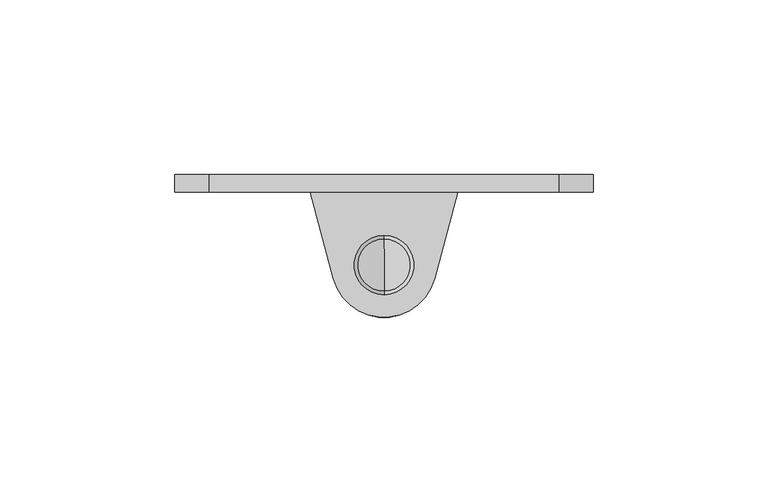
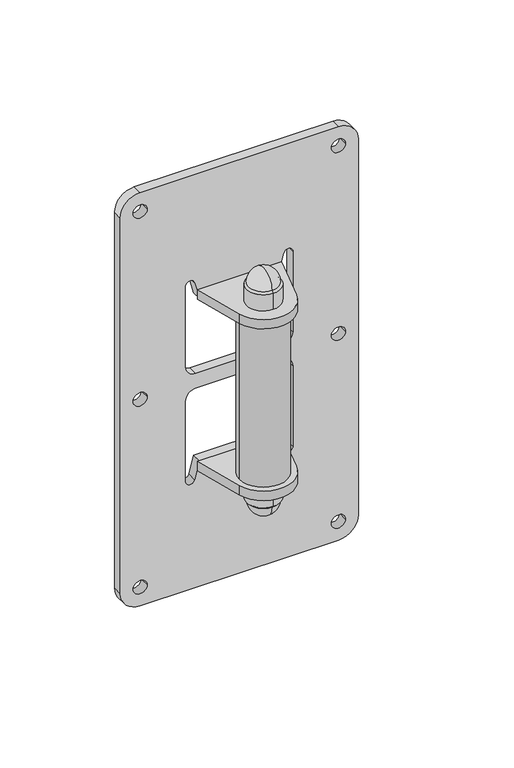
"""IFC4 building model written with IfcOpenShell, lengths in millimetres: proxy geometry, ePS10-WM02-WVM : ePS10-WM02-WVM."""

from ifc_helpers import new_model, si_unit, point, frame, frame_2d, origin, place, context, project, spatial, polyline, circle_curve, ellipse_curve, trimmed, segment, composite_curve, outline, extrude, source, transform, mapped, element, save
from ifc_brep_helpers import plane_surface, cylinder_surface, revolved_surface, advanced_brep


def generic_models_40b17b7d(model_context):
    return source(origin(), model_context, "Body", "SolidModel", [
        advanced_brep(
        [(0.0, -18.5250899, 57.7223064), (0.0, -33.480477, 57.7223064), (0.0, -26.0027834, 65.2), (0.0, -17.5027834, 56.7), (0.0, -34.5027834, 56.7), (0.0, -17.5027834, 48.2), (0.0, -34.5027834, 48.2), (0.0, -26.0027834, 48.2)],
        [
            (0, 1, circle_curve(frame((0.0, -26.0027834, 57.7223064), z_axis=(0.0, 0.0, 1.0), x_axis=(0.0, -1.0, 0.0)), 7.4776936)),
            (1, 2, circle_curve(frame((0.0, -26.0027834, 57.7223064), z_axis=(-1.0, 0.0, 0.0), x_axis=(0.0, 1.0, 0.0)), 7.4776936)),
            (2, 0, circle_curve(frame((0.0, -26.0027834, 57.7223064), z_axis=(-1.0, 0.0, 0.0), x_axis=(0.0, -1.0, 0.0)), 7.4776936)),
            (1, 0, circle_curve(frame((0.0, -26.0027834, 57.7223064), z_axis=(0.0, 0.0, 1.0), x_axis=(0.0, -1.0, 0.0)), 7.4776936)),
            (3, 4, circle_curve(frame((0.0, -26.0027834, 56.7), z_axis=(0.0, 0.0, 1.0), x_axis=(0.0, -1.0, 0.0)), 8.5)),
            (4, 1),
            (0, 3),
            (4, 3, circle_curve(frame((0.0, -26.0027834, 56.7), z_axis=(0.0, 0.0, 1.0), x_axis=(0.0, -1.0, 0.0)), 8.5)),
            (5, 6, circle_curve(frame((0.0, -26.0027834, 48.2), z_axis=(0.0, 0.0, 1.0), x_axis=(0.0, -1.0, 0.0)), 8.5)),
            (6, 4),
            (3, 5),
            (6, 5, circle_curve(frame((0.0, -26.0027834, 48.2), z_axis=(0.0, 0.0, 1.0), x_axis=(0.0, -1.0, 0.0)), 8.5)),
            (7, 6),
            (5, 7),
        ],
        [
            revolved_surface(trimmed(ellipse_curve(frame((0.0, -26.0027834, 57.7223064), z_axis=(1.0, 0.0, 0.0), x_axis=(0.0, 1.0, 0.0)), 7.4776936, 7.4776936), [point((0.0, -26.0027834, 65.2))], [point((0.0, -33.480477, 57.7223064))], True, "CARTESIAN"), (0.0, -26.0027834, 74.3), (0.0, 0.0, -1.0)),
            revolved_surface(polyline([(0.0, -33.480477, 57.7223064), (0.0, -34.5027834, 56.7)]), (0.0, -26.0027834, 74.3), (0.0, 0.0, -1.0)),
            cylinder_surface(frame((0.0, -26.0027834, 74.3), z_axis=(0.0, 0.0, -1.0), x_axis=(0.0, -1.0, 0.0)), 8.5),
            plane_surface(frame((0.0, -26.0027834, 48.2), z_axis=(0.0, 0.0, -1.0), x_axis=(0.0, -1.0, 0.0))),
        ],
        [
            (0, [[1, 2, 3]]),
            (0, [[4, -3, -2]]),
            (1, [[5, 6, -1, 7]]),
            (1, [[8, -7, -4, -6]]),
            (2, [[9, 10, -5, 11]]),
            (2, [[12, -11, -8, -10]]),
            (3, [[13, -9, 14]]),
            (3, [[-14, -12, -13]]),
        ],
    ),
        advanced_brep(
        [(0.0, -17.5027834, -48.2), (0.0, -34.5027834, -48.2), (0.0, -26.0027834, -48.2), (0.0, -17.5027834, -56.7), (0.0, -34.5027834, -56.7), (0.0, -18.5250899, -57.7223064), (0.0, -33.480477, -57.7223064), (0.0, -26.0027834, -65.2)],
        [
            (0, 1, circle_curve(frame((0.0, -26.0027834, -48.2), z_axis=(0.0, 0.0, 1.0), x_axis=(0.0, -1.0, 0.0)), 8.5)),
            (1, 2),
            (2, 0),
            (1, 0, circle_curve(frame((0.0, -26.0027834, -48.2), z_axis=(0.0, 0.0, 1.0), x_axis=(0.0, -1.0, 0.0)), 8.5)),
            (3, 4, circle_curve(frame((0.0, -26.0027834, -56.7), z_axis=(0.0, 0.0, 1.0), x_axis=(0.0, -1.0, 0.0)), 8.5)),
            (4, 1),
            (0, 3),
            (4, 3, circle_curve(frame((0.0, -26.0027834, -56.7), z_axis=(0.0, 0.0, 1.0), x_axis=(0.0, -1.0, 0.0)), 8.5)),
            (5, 6, circle_curve(frame((0.0, -26.0027834, -57.7223064), z_axis=(0.0, 0.0, 1.0), x_axis=(0.0, -1.0, 0.0)), 7.4776936)),
            (6, 4),
            (3, 5),
            (6, 5, circle_curve(frame((0.0, -26.0027834, -57.7223064), z_axis=(0.0, 0.0, 1.0), x_axis=(0.0, -1.0, 0.0)), 7.4776936)),
            (7, 6, circle_curve(frame((0.0, -26.0027834, -57.7223064), z_axis=(-1.0, 0.0, 0.0), x_axis=(0.0, 1.0, 0.0)), 7.4776936)),
            (5, 7, circle_curve(frame((0.0, -26.0027834, -57.7223064), z_axis=(-1.0, 0.0, 0.0), x_axis=(0.0, -1.0, 0.0)), 7.4776936)),
        ],
        [
            plane_surface(frame((0.0, -26.0027834, -48.2), z_axis=(0.0, 0.0, 1.0), x_axis=(0.0, -1.0, 0.0))),
            cylinder_surface(frame((0.0, -26.0027834, 74.3), z_axis=(0.0, 0.0, -1.0), x_axis=(0.0, -1.0, 0.0)), 8.5),
            revolved_surface(polyline([(0.0, -34.5027834, -56.7), (0.0, -33.480477, -57.7223064)]), (0.0, -26.0027834, 74.3), (0.0, 0.0, -1.0)),
            revolved_surface(trimmed(ellipse_curve(frame((0.0, -26.0027834, -57.7223064), z_axis=(1.0, 0.0, 0.0), x_axis=(0.0, 1.0, 0.0)), 7.4776936, 7.4776936), [point((0.0, -33.480477, -57.7223064))], [point((0.0, -26.0027834, -65.2))], True, "CARTESIAN"), (0.0, -26.0027834, 74.3), (0.0, 0.0, -1.0)),
        ],
        [
            (0, [[1, 2, 3]]),
            (0, [[4, -3, -2]]),
            (1, [[5, 6, -1, 7]]),
            (1, [[8, -7, -4, -6]]),
            (2, [[9, 10, -5, 11]]),
            (2, [[12, -11, -8, -10]]),
            (3, [[13, -9, 14]]),
            (3, [[-14, -12, -13]]),
        ],
    ),
        extrude(outline(composite_curve([segment(trimmed(circle_curve(frame_2d((0.0, -26.0027834)), 12.0), [point((-12.0, -26.0027834))], [point((12.0, -26.0027834))], False, "CARTESIAN"), True, "CONTINUOUS"), segment(trimmed(circle_curve(frame_2d((0.0, -26.0027834)), 12.0), [point((12.0, -26.0027834))], [point((-12.0, -26.0027834))], False, "CARTESIAN"), True, "CONTINUOUS")], self_intersect=False)), frame((0.0, 0.0, -43.2), z_axis=(0.0, 0.0, 1.0), x_axis=(1.0, 0.0, 0.0)), (0.0, 0.0, 1.0), 86.4),
        extrude(outline(composite_curve([segment(polyline([(21.1560758, -5.0027833), (14.4888874, -29.8850691)]), True, "CONTINUOUS"), segment(trimmed(circle_curve(frame_2d((0.0, -26.0027834)), 15.0), [point((14.4888874, -29.8850691))], [point((-14.4888874, -29.8850691))], False, "CARTESIAN"), True, "CONTINUOUS"), segment(polyline([(-14.4888874, -29.8850691), (-21.1560758, -5.0027833), (21.1560758, -5.0027833)]), True, "CONTINUOUS")], self_intersect=False), holes=[composite_curve([segment(trimmed(circle_curve(frame_2d((0.0, -26.0027834)), 3.5), [point((-3.5, -26.0027834))], [point((3.5, -26.0027834))], True, "CARTESIAN"), True, "CONTINUOUS"), segment(trimmed(circle_curve(frame_2d((0.0, -26.0027834)), 3.5), [point((3.5, -26.0027834))], [point((-3.5, -26.0027834))], True, "CARTESIAN"), True, "CONTINUOUS")], self_intersect=False)]), frame((0.0, 0.0, -48.2), z_axis=(0.0, 0.0, 1.0), x_axis=(1.0, 0.0, 0.0)), (0.0, 0.0, 1.0), 5.0),
        extrude(outline(composite_curve([segment(polyline([(21.1560758, -5.0027833), (14.4888874, -29.8850691)]), True, "CONTINUOUS"), segment(trimmed(circle_curve(frame_2d((0.0, -26.0027834)), 15.0), [point((14.4888874, -29.8850691))], [point((-14.4888874, -29.8850691))], False, "CARTESIAN"), True, "CONTINUOUS"), segment(polyline([(-14.4888874, -29.8850691), (-21.1560758, -5.0027833), (21.1560758, -5.0027833)]), True, "CONTINUOUS")], self_intersect=False), holes=[composite_curve([segment(trimmed(circle_curve(frame_2d((0.0, -26.0027834)), 3.5), [point((-3.5, -26.0027834))], [point((3.5, -26.0027834))], True, "CARTESIAN"), True, "CONTINUOUS"), segment(trimmed(circle_curve(frame_2d((0.0, -26.0027834)), 3.5), [point((3.5, -26.0027834))], [point((-3.5, -26.0027834))], True, "CARTESIAN"), True, "CONTINUOUS")], self_intersect=False)]), frame((0.0, 0.0, 43.2), z_axis=(0.0, 0.0, 1.0), x_axis=(1.0, 0.0, 0.0)), (0.0, 0.0, 1.0), 5.0),
        extrude(outline(composite_curve([segment(polyline([(110.0, 50.0), (110.0, -50.0)]), True, "CONTINUOUS"), segment(trimmed(circle_curve(frame_2d((100.0, -50.0)), 10.0), [point((110.0, -50.0))], [point((100.0, -60.0))], False, "CARTESIAN"), True, "CONTINUOUS"), segment(polyline([(100.0, -60.0), (-100.0, -60.0)]), True, "CONTINUOUS"), segment(trimmed(circle_curve(frame_2d((-100.0, -50.0)), 10.0), [point((-100.0, -60.0))], [point((-110.0, -50.0))], False, "CARTESIAN"), True, "CONTINUOUS"), segment(polyline([(-110.0, -50.0), (-110.0, 50.0)]), True, "CONTINUOUS"), segment(trimmed(circle_curve(frame_2d((-100.0, 50.0)), 10.0), [point((-110.0, 50.0))], [point((-100.0, 60.0))], False, "CARTESIAN"), True, "CONTINUOUS"), segment(polyline([(-100.0, 60.0), (100.0, 60.0)]), True, "CONTINUOUS"), segment(trimmed(circle_curve(frame_2d((100.0, 50.0)), 10.0), [point((100.0, 60.0))], [point((110.0, 50.0))], False, "CARTESIAN"), True, "CONTINUOUS")], self_intersect=False), holes=[composite_curve([segment(trimmed(circle_curve(frame_2d((100.0, 50.0)), 3.5), [point((100.0, 46.5))], [point((100.0, 53.5))], True, "CARTESIAN"), True, "CONTINUOUS"), segment(trimmed(circle_curve(frame_2d((100.0, 50.0)), 3.5), [point((100.0, 53.5))], [point((100.0, 46.5))], True, "CARTESIAN"), True, "CONTINUOUS")], self_intersect=False), composite_curve([segment(trimmed(circle_curve(frame_2d((100.0, -50.0)), 3.5), [point((100.0, -46.5))], [point((100.0, -53.5))], True, "CARTESIAN"), True, "CONTINUOUS"), segment(trimmed(circle_curve(frame_2d((100.0, -50.0)), 3.5), [point((100.0, -53.5))], [point((100.0, -46.5))], True, "CARTESIAN"), True, "CONTINUOUS")], self_intersect=False), composite_curve([segment(trimmed(circle_curve(frame_2d((-100.0, -50.0)), 3.5), [point((-100.0, -46.5))], [point((-100.0, -53.5))], True, "CARTESIAN"), True, "CONTINUOUS"), segment(trimmed(circle_curve(frame_2d((-100.0, -50.0)), 3.5), [point((-100.0, -53.5))], [point((-100.0, -46.5))], True, "CARTESIAN"), True, "CONTINUOUS")], self_intersect=False), composite_curve([segment(trimmed(circle_curve(frame_2d((-100.0, 50.0)), 3.5), [point((-100.0, 46.5))], [point((-100.0, 53.5))], True, "CARTESIAN"), True, "CONTINUOUS"), segment(trimmed(circle_curve(frame_2d((-100.0, 50.0)), 3.5), [point((-100.0, 53.5))], [point((-100.0, 46.5))], True, "CARTESIAN"), True, "CONTINUOUS")], self_intersect=False), composite_curve([segment(polyline([(4.0, 22.0), (4.0, -22.0)]), True, "CONTINUOUS"), segment(trimmed(circle_curve(frame_2d((9.0, -22.0)), 5.0), [point((4.0, -22.0))], [point((9.0, -27.0))], True, "CARTESIAN"), True, "CONTINUOUS"), segment(polyline([(9.0, -27.0), (51.9, -27.0)]), True, "CONTINUOUS"), segment(trimmed(circle_curve(frame_2d((51.9, -24.735039)), 2.264961), [point((51.9, -27.0))], [point((52.4176381, -22.5300222))], True, "CARTESIAN"), True, "CONTINUOUS"), segment(polyline([(52.4176381, -22.5300222), (43.2, -20.0601636), (43.2, 20.0601636), (52.4176381, 22.5300222)]), True, "CONTINUOUS"), segment(trimmed(circle_curve(frame_2d((51.8290084, 24.726818)), 2.2742903), [point((52.4176381, 22.5300222))], [point((51.9, 27.0))], True, "CARTESIAN"), True, "CONTINUOUS"), segment(polyline([(51.9, 27.0), (9.0, 27.0)]), True, "CONTINUOUS"), segment(trimmed(circle_curve(frame_2d((9.0, 22.0)), 5.0), [point((9.0, 27.0))], [point((4.0, 22.0))], True, "CARTESIAN"), True, "CONTINUOUS")], self_intersect=False), composite_curve([segment(trimmed(circle_curve(frame_2d((-9.0, 22.0)), 5.0), [point((-4.0, 22.0))], [point((-9.0, 27.0))], True, "CARTESIAN"), True, "CONTINUOUS"), segment(polyline([(-9.0, 27.0), (-51.9, 27.0)]), True, "CONTINUOUS"), segment(trimmed(circle_curve(frame_2d((-51.8290084, 24.726818)), 2.2742903), [point((-51.9, 27.0))], [point((-52.4176381, 22.5300222))], True, "CARTESIAN"), True, "CONTINUOUS"), segment(polyline([(-52.4176381, 22.5300222), (-43.2, 20.0601636), (-43.2, -20.0601636), (-52.4176381, -22.5300222)]), True, "CONTINUOUS"), segment(trimmed(circle_curve(frame_2d((-51.9, -24.735039)), 2.264961), [point((-52.4176381, -22.5300222))], [point((-51.9, -27.0))], True, "CARTESIAN"), True, "CONTINUOUS"), segment(polyline([(-51.9, -27.0), (-9.0, -27.0)]), True, "CONTINUOUS"), segment(trimmed(circle_curve(frame_2d((-9.0, -22.0)), 5.0), [point((-9.0, -27.0))], [point((-4.0, -22.0))], True, "CARTESIAN"), True, "CONTINUOUS"), segment(polyline([(-4.0, -22.0), (-4.0, 22.0)]), True, "CONTINUOUS")], self_intersect=False), composite_curve([segment(trimmed(circle_curve(frame_2d((0.0, 50.0)), 3.5), [point((0.0, 46.5))], [point((0.0, 53.5))], True, "CARTESIAN"), True, "CONTINUOUS"), segment(trimmed(circle_curve(frame_2d((0.0, 50.0)), 3.5), [point((0.0, 53.5))], [point((0.0, 46.5))], True, "CARTESIAN"), True, "CONTINUOUS")], self_intersect=False), composite_curve([segment(trimmed(circle_curve(frame_2d((0.0, -50.0)), 3.5), [point((0.0, -46.5))], [point((0.0, -53.5))], True, "CARTESIAN"), True, "CONTINUOUS"), segment(trimmed(circle_curve(frame_2d((0.0, -50.0)), 3.5), [point((0.0, -53.5))], [point((0.0, -46.5))], True, "CARTESIAN"), True, "CONTINUOUS")], self_intersect=False)]), frame((0.0, -5.0027833, 0.0), z_axis=(0.0, 1.0, 0.0), x_axis=(0.0, 0.0, 1.0)), (0.0, 0.0, 1.0), 5.0027833),
    ])


if __name__ == "__main__":
    model = new_model("IFC4")
    model_context = context("Model", 3, world=origin())
    ifc_project = project(units=[si_unit("LENGTHUNIT", "METRE", prefix="MILLI")], contexts=[model_context])
    site = spatial("IfcSite", under=ifc_project)
    building = spatial("IfcBuilding", under=site)
    placement = place(None, origin())
    generic_models_shape = generic_models_40b17b7d(model_context)
    element("IfcBuildingElementProxy", 1, Name="ePS10-WM02-WVM : ePS10-WM02-WVM", ObjectType="ePS10-WM02-WVM : ePS10-WM02-WVM", at=placement, inside=building, context=model_context, shape_type="MappedRepresentation", body=[
        mapped(generic_models_shape, transform((0.0, 0.0, 0.0), x_axis=(1.0, 0.0, 0.0), y_axis=(0.0, 1.0, 0.0), z_axis=(0.0, 0.0, 1.0))),
    ])
    save(model, "model.ifc")
